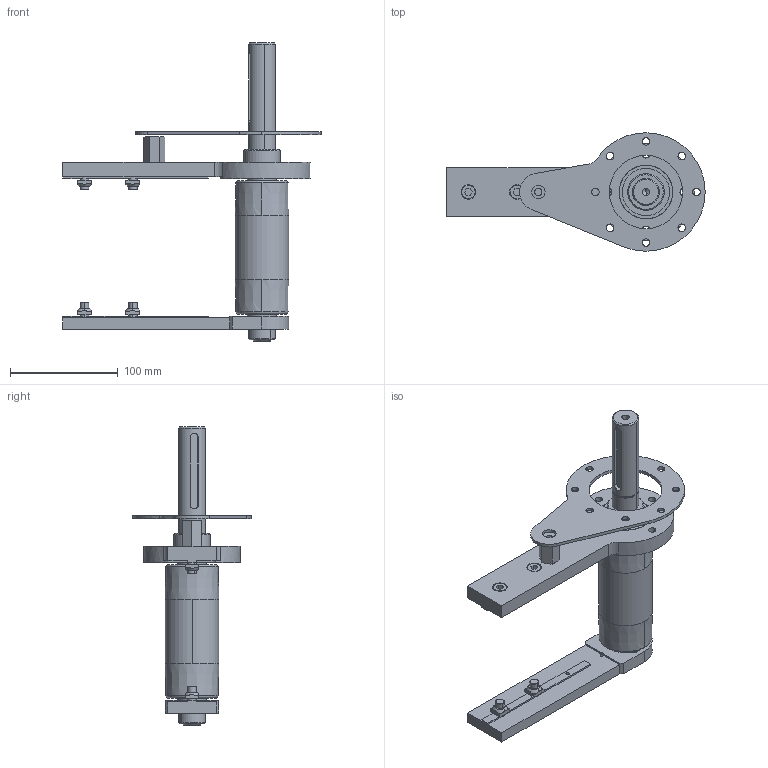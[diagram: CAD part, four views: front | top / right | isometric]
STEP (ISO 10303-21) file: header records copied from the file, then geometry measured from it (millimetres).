
FILE_DESCRIPTION (( 'STEP AP203' ), '1' );
FILE_NAME ('084.050.KD.49.100.STEP', '2016-02-25T14:16:40', ( '' ), ( '' ), 'SwSTEP 2.0', 'SolidWorks 2016', '' );
FILE_SCHEMA (( 'CONFIG_CONTROL_DESIGN' ));
Length unit declared in the file: millimetre
Products named in the file (1): 084.050.KD.49.100
Bounding box: 240 x 110 x 277 mm (x, y, z)
Volume: 486767.3 mm3; surface area: 206242.9 mm2
Topology: 24 solids, 25 shells, 603 faces, 1514 edges, 982 vertices
Faces by surface type: plane 249, cylinder 226, torus 68, cone 51, sphere 9
Entity records: 18869 total; most frequent: CARTESIAN_POINT 3749, DIRECTION 3376, ORIENTED_EDGE 2984, EDGE_CURVE 1492, AXIS2_PLACEMENT_3D 1346, VERTEX_POINT 971, CIRCLE 743, EDGE_LOOP 721
